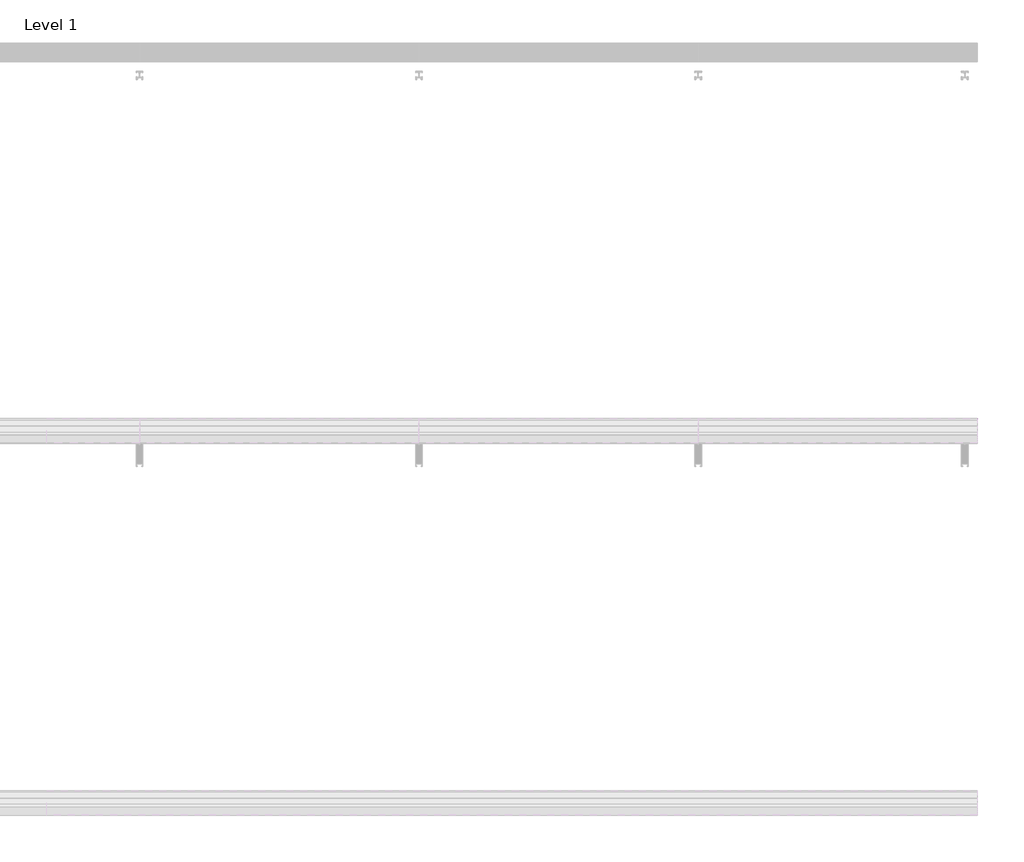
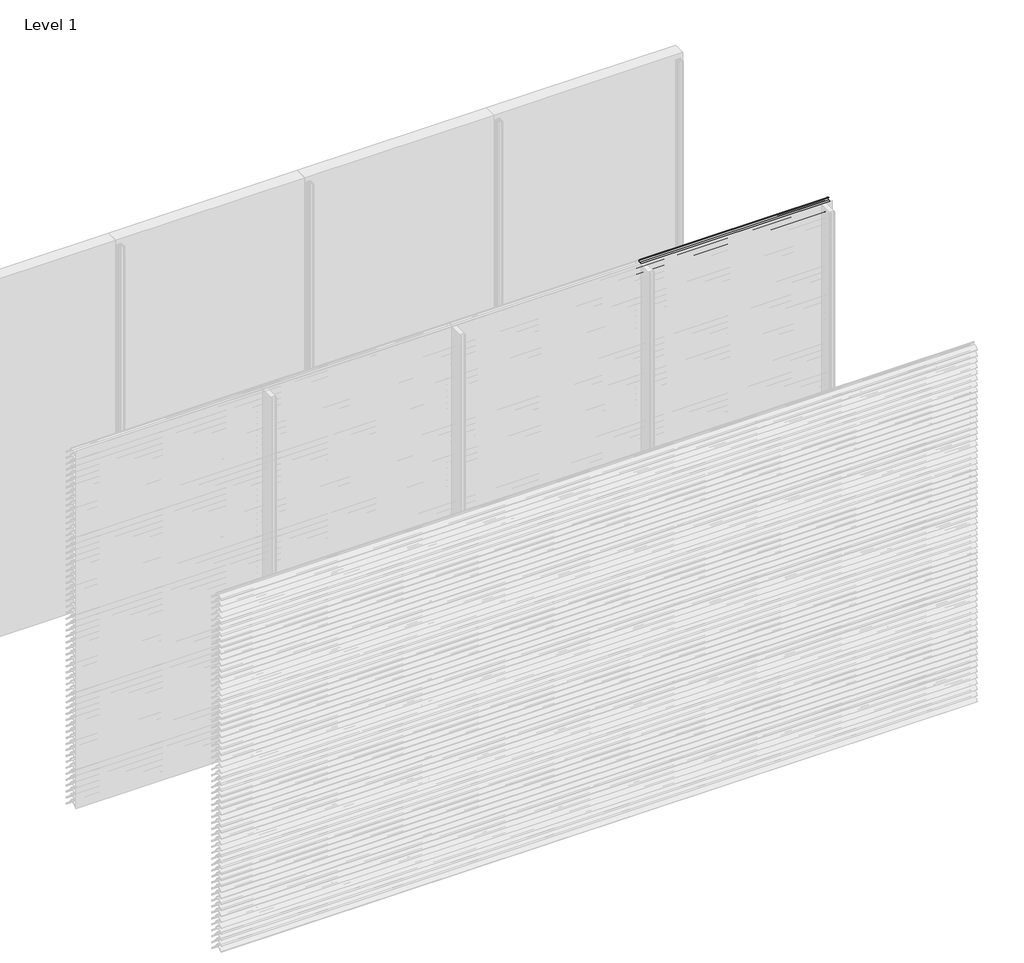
# One storey, part 33 of 173: 18 proxies.
"""IFC4 building model written with IfcOpenShell, lengths in millimetres."""

from ifc_helpers import new_model, si_unit, point, frame, frame_2d, origin, place, context, project, spatial, polyline, circle_curve, trimmed, segment, composite_curve, outline, extrude, element, save

model = new_model("IFC4")

# Units and contexts
model_context = context("Model", 3, world=origin())
ifc_project = project(units=[si_unit("LENGTHUNIT", "METRE", prefix="MILLI")], contexts=[model_context])

# Site, building, storey
site = spatial("IfcSite", under=ifc_project)
building = spatial("IfcBuilding", under=site)
storey = spatial("IfcBuildingStorey", under=building, Name="Level 1", Elevation=0.0)

# Proxies
placement = place(None, origin())
element("IfcBuildingElementProxy", 1, Name="Wall Sweeps", at=placement, inside=storey, context=model_context, shape_type="SweptSolid", body=[
    extrude(outline(composite_curve([segment(polyline([(-47998.0, 709.1474905), (-47998.0, 711.6227417)]), True, "CONTINUOUS"), segment(trimmed(circle_curve(frame_2d((-47951.2682172, 666.2200208)), 65.1557103), [point((-47998.0, 711.6227417))], [point((-47954.4014323, 731.3003524))], False, "CARTESIAN"), True, "CONTINUOUS"), segment(polyline([(-47954.4014323, 731.3003524), (-47934.8315836, 731.3003524)]), True, "CONTINUOUS"), segment(trimmed(circle_curve(frame_2d((-47732.7329489, 878.5533172)), 250.0545817), [point((-47934.8315836, 731.3003524))], [point((-47941.4452143, 740.8344583))], False, "CARTESIAN"), True, "CONTINUOUS"), segment(trimmed(circle_curve(frame_2d((-47953.2981792, 735.1737835)), 13.1352966), [point((-47941.4452143, 740.8344583))], [point((-47953.8171475, 748.298824))], True, "CARTESIAN"), True, "CONTINUOUS"), segment(polyline([(-47953.8171475, 748.298824), (-47953.8171475, 750.0)]), True, "CONTINUOUS"), segment(trimmed(circle_curve(frame_2d((-47953.2981792, 735.1737835)), 14.8352966), [point((-47953.8171475, 750.0))], [point((-47939.9637661, 741.6760487))], False, "CARTESIAN"), True, "CONTINUOUS"), segment(trimmed(circle_curve(frame_2d((-47732.7329489, 878.5533172)), 248.3545817), [point((-47939.9637661, 741.6760487))], [point((-47873.8787895, 674.2059416))], True, "CARTESIAN"), True, "CONTINUOUS"), segment(trimmed(circle_curve(frame_2d((-47883.8147537, 661.6649442)), 16.0), [point((-47873.8787895, 674.2059416))], [point((-47867.8648347, 660.4))], False, "CARTESIAN"), True, "CONTINUOUS"), segment(polyline([(-47867.8648347, 660.4), (-47869.6712069, 660.4)]), True, "CONTINUOUS"), segment(trimmed(circle_curve(frame_2d((-47883.8147537, 661.6649442)), 14.2), [point((-47869.6712069, 660.4))], [point((-47874.9518628, 672.7594998))], True, "CARTESIAN"), True, "CONTINUOUS"), segment(trimmed(circle_curve(frame_2d((-47732.7329489, 878.5533172)), 250.1545817), [point((-47874.9518628, 672.7594998))], [point((-47933.7064024, 729.6003524))], False, "CARTESIAN"), True, "CONTINUOUS"), segment(polyline([(-47933.7064024, 729.6003524), (-47954.3602632, 729.6003524)]), True, "CONTINUOUS"), segment(trimmed(circle_curve(frame_2d((-47951.2682172, 666.2200208)), 63.4557103), [point((-47954.3602632, 729.6003524))], [point((-47998.0, 709.1474905))], True, "CARTESIAN"), True, "CONTINUOUS")], self_intersect=False)), frame((3000.0, 0.0, 0.0), z_axis=(1.0, 0.0, 0.0), x_axis=(0.0, 1.0, 0.0)), (0.0, 0.0, 1.0), 1500.0),
])
element("IfcBuildingElementProxy", 2, Name="Wall Sweeps", at=placement, inside=storey, context=model_context, shape_type="SweptSolid", body=[
    extrude(outline(composite_curve([segment(polyline([(-47998.0, 659.1474905), (-47998.0, 661.6227417)]), True, "CONTINUOUS"), segment(trimmed(circle_curve(frame_2d((-47951.2682172, 616.2200208)), 65.1557103), [point((-47998.0, 661.6227417))], [point((-47954.4014323, 681.3003524))], False, "CARTESIAN"), True, "CONTINUOUS"), segment(polyline([(-47954.4014323, 681.3003524), (-47934.8315836, 681.3003524)]), True, "CONTINUOUS"), segment(trimmed(circle_curve(frame_2d((-47732.7329489, 828.5533172)), 250.0545817), [point((-47934.8315836, 681.3003524))], [point((-47941.4452143, 690.8344583))], False, "CARTESIAN"), True, "CONTINUOUS"), segment(trimmed(circle_curve(frame_2d((-47953.2981792, 685.1737835)), 13.1352966), [point((-47941.4452143, 690.8344583))], [point((-47953.8171475, 698.298824))], True, "CARTESIAN"), True, "CONTINUOUS"), segment(polyline([(-47953.8171475, 698.298824), (-47953.8171475, 700.0)]), True, "CONTINUOUS"), segment(trimmed(circle_curve(frame_2d((-47953.2981792, 685.1737835)), 14.8352966), [point((-47953.8171475, 700.0))], [point((-47939.9637661, 691.6760487))], False, "CARTESIAN"), True, "CONTINUOUS"), segment(trimmed(circle_curve(frame_2d((-47732.7329489, 828.5533172)), 248.3545817), [point((-47939.9637661, 691.6760487))], [point((-47873.8787895, 624.2059416))], True, "CARTESIAN"), True, "CONTINUOUS"), segment(trimmed(circle_curve(frame_2d((-47883.8147537, 611.6649442)), 16.0), [point((-47873.8787895, 624.2059416))], [point((-47867.8648347, 610.4))], False, "CARTESIAN"), True, "CONTINUOUS"), segment(polyline([(-47867.8648347, 610.4), (-47869.6712069, 610.4)]), True, "CONTINUOUS"), segment(trimmed(circle_curve(frame_2d((-47883.8147537, 611.6649442)), 14.2), [point((-47869.6712069, 610.4))], [point((-47874.9518628, 622.7594998))], True, "CARTESIAN"), True, "CONTINUOUS"), segment(trimmed(circle_curve(frame_2d((-47732.7329489, 828.5533172)), 250.1545817), [point((-47874.9518628, 622.7594998))], [point((-47933.7064024, 679.6003524))], False, "CARTESIAN"), True, "CONTINUOUS"), segment(polyline([(-47933.7064024, 679.6003524), (-47954.3602632, 679.6003524)]), True, "CONTINUOUS"), segment(trimmed(circle_curve(frame_2d((-47951.2682172, 616.2200208)), 63.4557103), [point((-47954.3602632, 679.6003524))], [point((-47998.0, 659.1474905))], True, "CARTESIAN"), True, "CONTINUOUS")], self_intersect=False)), frame((3000.0, 0.0, 0.0), z_axis=(1.0, 0.0, 0.0), x_axis=(0.0, 1.0, 0.0)), (0.0, 0.0, 1.0), 1500.0),
])
element("IfcBuildingElementProxy", 3, Name="Wall Sweeps", at=placement, inside=storey, context=model_context, shape_type="SweptSolid", body=[
    extrude(outline(composite_curve([segment(polyline([(-47998.0, 609.1474905), (-47998.0, 611.6227417)]), True, "CONTINUOUS"), segment(trimmed(circle_curve(frame_2d((-47951.2682172, 566.2200208)), 65.1557103), [point((-47998.0, 611.6227417))], [point((-47954.4014323, 631.3003524))], False, "CARTESIAN"), True, "CONTINUOUS"), segment(polyline([(-47954.4014323, 631.3003524), (-47934.8315836, 631.3003524)]), True, "CONTINUOUS"), segment(trimmed(circle_curve(frame_2d((-47732.7329489, 778.5533172)), 250.0545817), [point((-47934.8315836, 631.3003524))], [point((-47941.4452143, 640.8344583))], False, "CARTESIAN"), True, "CONTINUOUS"), segment(trimmed(circle_curve(frame_2d((-47953.2981792, 635.1737835)), 13.1352966), [point((-47941.4452143, 640.8344583))], [point((-47953.8171475, 648.298824))], True, "CARTESIAN"), True, "CONTINUOUS"), segment(polyline([(-47953.8171475, 648.298824), (-47953.8171475, 650.0)]), True, "CONTINUOUS"), segment(trimmed(circle_curve(frame_2d((-47953.2981792, 635.1737835)), 14.8352966), [point((-47953.8171475, 650.0))], [point((-47939.9637661, 641.6760487))], False, "CARTESIAN"), True, "CONTINUOUS"), segment(trimmed(circle_curve(frame_2d((-47732.7329489, 778.5533172)), 248.3545817), [point((-47939.9637661, 641.6760487))], [point((-47873.8787895, 574.2059416))], True, "CARTESIAN"), True, "CONTINUOUS"), segment(trimmed(circle_curve(frame_2d((-47883.8147537, 561.6649442)), 16.0), [point((-47873.8787895, 574.2059416))], [point((-47867.8648347, 560.4))], False, "CARTESIAN"), True, "CONTINUOUS"), segment(polyline([(-47867.8648347, 560.4), (-47869.6712069, 560.4)]), True, "CONTINUOUS"), segment(trimmed(circle_curve(frame_2d((-47883.8147537, 561.6649442)), 14.2), [point((-47869.6712069, 560.4))], [point((-47874.9518628, 572.7594998))], True, "CARTESIAN"), True, "CONTINUOUS"), segment(trimmed(circle_curve(frame_2d((-47732.7329489, 778.5533172)), 250.1545817), [point((-47874.9518628, 572.7594998))], [point((-47933.7064024, 629.6003524))], False, "CARTESIAN"), True, "CONTINUOUS"), segment(polyline([(-47933.7064024, 629.6003524), (-47954.3602632, 629.6003524)]), True, "CONTINUOUS"), segment(trimmed(circle_curve(frame_2d((-47951.2682172, 566.2200208)), 63.4557103), [point((-47954.3602632, 629.6003524))], [point((-47998.0, 609.1474905))], True, "CARTESIAN"), True, "CONTINUOUS")], self_intersect=False)), frame((3000.0, 0.0, 0.0), z_axis=(1.0, 0.0, 0.0), x_axis=(0.0, 1.0, 0.0)), (0.0, 0.0, 1.0), 1500.0),
])
element("IfcBuildingElementProxy", 4, Name="Wall Sweeps", at=placement, inside=storey, context=model_context, shape_type="SweptSolid", body=[
    extrude(outline(composite_curve([segment(polyline([(-47998.0, 559.1474905), (-47998.0, 561.6227417)]), True, "CONTINUOUS"), segment(trimmed(circle_curve(frame_2d((-47951.2682172, 516.2200208)), 65.1557103), [point((-47998.0, 561.6227417))], [point((-47954.4014323, 581.3003524))], False, "CARTESIAN"), True, "CONTINUOUS"), segment(polyline([(-47954.4014323, 581.3003524), (-47934.8315836, 581.3003524)]), True, "CONTINUOUS"), segment(trimmed(circle_curve(frame_2d((-47732.7329489, 728.5533172)), 250.0545817), [point((-47934.8315836, 581.3003524))], [point((-47941.4452143, 590.8344583))], False, "CARTESIAN"), True, "CONTINUOUS"), segment(trimmed(circle_curve(frame_2d((-47953.2981792, 585.1737835)), 13.1352966), [point((-47941.4452143, 590.8344583))], [point((-47953.8171475, 598.298824))], True, "CARTESIAN"), True, "CONTINUOUS"), segment(polyline([(-47953.8171475, 598.298824), (-47953.8171475, 600.0)]), True, "CONTINUOUS"), segment(trimmed(circle_curve(frame_2d((-47953.2981792, 585.1737835)), 14.8352966), [point((-47953.8171475, 600.0))], [point((-47939.9637661, 591.6760487))], False, "CARTESIAN"), True, "CONTINUOUS"), segment(trimmed(circle_curve(frame_2d((-47732.7329489, 728.5533172)), 248.3545817), [point((-47939.9637661, 591.6760487))], [point((-47873.8787895, 524.2059416))], True, "CARTESIAN"), True, "CONTINUOUS"), segment(trimmed(circle_curve(frame_2d((-47883.8147537, 511.6649442)), 16.0), [point((-47873.8787895, 524.2059416))], [point((-47867.8648347, 510.4))], False, "CARTESIAN"), True, "CONTINUOUS"), segment(polyline([(-47867.8648347, 510.4), (-47869.6712069, 510.4)]), True, "CONTINUOUS"), segment(trimmed(circle_curve(frame_2d((-47883.8147537, 511.6649442)), 14.2), [point((-47869.6712069, 510.4))], [point((-47874.9518628, 522.7594998))], True, "CARTESIAN"), True, "CONTINUOUS"), segment(trimmed(circle_curve(frame_2d((-47732.7329489, 728.5533172)), 250.1545817), [point((-47874.9518628, 522.7594998))], [point((-47933.7064024, 579.6003524))], False, "CARTESIAN"), True, "CONTINUOUS"), segment(polyline([(-47933.7064024, 579.6003524), (-47954.3602632, 579.6003524)]), True, "CONTINUOUS"), segment(trimmed(circle_curve(frame_2d((-47951.2682172, 516.2200208)), 63.4557103), [point((-47954.3602632, 579.6003524))], [point((-47998.0, 559.1474905))], True, "CARTESIAN"), True, "CONTINUOUS")], self_intersect=False)), frame((3000.0, 0.0, 0.0), z_axis=(1.0, 0.0, 0.0), x_axis=(0.0, 1.0, 0.0)), (0.0, 0.0, 1.0), 1500.0),
])
element("IfcBuildingElementProxy", 5, Name="Wall Sweeps", at=placement, inside=storey, context=model_context, shape_type="SweptSolid", body=[
    extrude(outline(composite_curve([segment(polyline([(-47998.0, 509.1474905), (-47998.0, 511.6227417)]), True, "CONTINUOUS"), segment(trimmed(circle_curve(frame_2d((-47951.2682172, 466.2200208)), 65.1557103), [point((-47998.0, 511.6227417))], [point((-47954.4014323, 531.3003524))], False, "CARTESIAN"), True, "CONTINUOUS"), segment(polyline([(-47954.4014323, 531.3003524), (-47934.8315836, 531.3003524)]), True, "CONTINUOUS"), segment(trimmed(circle_curve(frame_2d((-47732.7329489, 678.5533172)), 250.0545817), [point((-47934.8315836, 531.3003524))], [point((-47941.4452143, 540.8344583))], False, "CARTESIAN"), True, "CONTINUOUS"), segment(trimmed(circle_curve(frame_2d((-47953.2981792, 535.1737835)), 13.1352966), [point((-47941.4452143, 540.8344583))], [point((-47953.8171475, 548.298824))], True, "CARTESIAN"), True, "CONTINUOUS"), segment(polyline([(-47953.8171475, 548.298824), (-47953.8171475, 550.0)]), True, "CONTINUOUS"), segment(trimmed(circle_curve(frame_2d((-47953.2981792, 535.1737835)), 14.8352966), [point((-47953.8171475, 550.0))], [point((-47939.9637661, 541.6760487))], False, "CARTESIAN"), True, "CONTINUOUS"), segment(trimmed(circle_curve(frame_2d((-47732.7329489, 678.5533172)), 248.3545817), [point((-47939.9637661, 541.6760487))], [point((-47873.8787895, 474.2059416))], True, "CARTESIAN"), True, "CONTINUOUS"), segment(trimmed(circle_curve(frame_2d((-47883.8147537, 461.6649442)), 16.0), [point((-47873.8787895, 474.2059416))], [point((-47867.8648347, 460.4))], False, "CARTESIAN"), True, "CONTINUOUS"), segment(polyline([(-47867.8648347, 460.4), (-47869.6712069, 460.4)]), True, "CONTINUOUS"), segment(trimmed(circle_curve(frame_2d((-47883.8147537, 461.6649442)), 14.2), [point((-47869.6712069, 460.4))], [point((-47874.9518628, 472.7594998))], True, "CARTESIAN"), True, "CONTINUOUS"), segment(trimmed(circle_curve(frame_2d((-47732.7329489, 678.5533172)), 250.1545817), [point((-47874.9518628, 472.7594998))], [point((-47933.7064024, 529.6003524))], False, "CARTESIAN"), True, "CONTINUOUS"), segment(polyline([(-47933.7064024, 529.6003524), (-47954.3602632, 529.6003524)]), True, "CONTINUOUS"), segment(trimmed(circle_curve(frame_2d((-47951.2682172, 466.2200208)), 63.4557103), [point((-47954.3602632, 529.6003524))], [point((-47998.0, 509.1474905))], True, "CARTESIAN"), True, "CONTINUOUS")], self_intersect=False)), frame((3000.0, 0.0, 0.0), z_axis=(1.0, 0.0, 0.0), x_axis=(0.0, 1.0, 0.0)), (0.0, 0.0, 1.0), 1500.0),
])
element("IfcBuildingElementProxy", 6, Name="Wall Sweeps", at=placement, inside=storey, context=model_context, shape_type="SweptSolid", body=[
    extrude(outline(composite_curve([segment(polyline([(-47998.0, 459.1474905), (-47998.0, 461.6227417)]), True, "CONTINUOUS"), segment(trimmed(circle_curve(frame_2d((-47951.2682172, 416.2200208)), 65.1557103), [point((-47998.0, 461.6227417))], [point((-47954.4014323, 481.3003524))], False, "CARTESIAN"), True, "CONTINUOUS"), segment(polyline([(-47954.4014323, 481.3003524), (-47934.8315836, 481.3003524)]), True, "CONTINUOUS"), segment(trimmed(circle_curve(frame_2d((-47732.7329489, 628.5533172)), 250.0545817), [point((-47934.8315836, 481.3003524))], [point((-47941.4452143, 490.8344583))], False, "CARTESIAN"), True, "CONTINUOUS"), segment(trimmed(circle_curve(frame_2d((-47953.2981792, 485.1737835)), 13.1352966), [point((-47941.4452143, 490.8344583))], [point((-47953.8171475, 498.298824))], True, "CARTESIAN"), True, "CONTINUOUS"), segment(polyline([(-47953.8171475, 498.298824), (-47953.8171475, 500.0)]), True, "CONTINUOUS"), segment(trimmed(circle_curve(frame_2d((-47953.2981792, 485.1737835)), 14.8352966), [point((-47953.8171475, 500.0))], [point((-47939.9637661, 491.6760487))], False, "CARTESIAN"), True, "CONTINUOUS"), segment(trimmed(circle_curve(frame_2d((-47732.7329489, 628.5533172)), 248.3545817), [point((-47939.9637661, 491.6760487))], [point((-47873.8787895, 424.2059416))], True, "CARTESIAN"), True, "CONTINUOUS"), segment(trimmed(circle_curve(frame_2d((-47883.8147537, 411.6649442)), 16.0), [point((-47873.8787895, 424.2059416))], [point((-47867.8648347, 410.4))], False, "CARTESIAN"), True, "CONTINUOUS"), segment(polyline([(-47867.8648347, 410.4), (-47869.6712069, 410.4)]), True, "CONTINUOUS"), segment(trimmed(circle_curve(frame_2d((-47883.8147537, 411.6649442)), 14.2), [point((-47869.6712069, 410.4))], [point((-47874.9518628, 422.7594998))], True, "CARTESIAN"), True, "CONTINUOUS"), segment(trimmed(circle_curve(frame_2d((-47732.7329489, 628.5533172)), 250.1545817), [point((-47874.9518628, 422.7594998))], [point((-47933.7064024, 479.6003524))], False, "CARTESIAN"), True, "CONTINUOUS"), segment(polyline([(-47933.7064024, 479.6003524), (-47954.3602632, 479.6003524)]), True, "CONTINUOUS"), segment(trimmed(circle_curve(frame_2d((-47951.2682172, 416.2200208)), 63.4557103), [point((-47954.3602632, 479.6003524))], [point((-47998.0, 459.1474905))], True, "CARTESIAN"), True, "CONTINUOUS")], self_intersect=False)), frame((3000.0, 0.0, 0.0), z_axis=(1.0, 0.0, 0.0), x_axis=(0.0, 1.0, 0.0)), (0.0, 0.0, 1.0), 1500.0),
])
element("IfcBuildingElementProxy", 7, Name="Wall Sweeps", at=placement, inside=storey, context=model_context, shape_type="SweptSolid", body=[
    extrude(outline(composite_curve([segment(polyline([(-47998.0, 409.1474905), (-47998.0, 411.6227417)]), True, "CONTINUOUS"), segment(trimmed(circle_curve(frame_2d((-47951.2682172, 366.2200208)), 65.1557103), [point((-47998.0, 411.6227417))], [point((-47954.4014323, 431.3003524))], False, "CARTESIAN"), True, "CONTINUOUS"), segment(polyline([(-47954.4014323, 431.3003524), (-47934.8315836, 431.3003524)]), True, "CONTINUOUS"), segment(trimmed(circle_curve(frame_2d((-47732.7329489, 578.5533172)), 250.0545817), [point((-47934.8315836, 431.3003524))], [point((-47941.4452143, 440.8344583))], False, "CARTESIAN"), True, "CONTINUOUS"), segment(trimmed(circle_curve(frame_2d((-47953.2981792, 435.1737835)), 13.1352966), [point((-47941.4452143, 440.8344583))], [point((-47953.8171475, 448.298824))], True, "CARTESIAN"), True, "CONTINUOUS"), segment(polyline([(-47953.8171475, 448.298824), (-47953.8171475, 450.0)]), True, "CONTINUOUS"), segment(trimmed(circle_curve(frame_2d((-47953.2981792, 435.1737835)), 14.8352966), [point((-47953.8171475, 450.0))], [point((-47939.9637661, 441.6760487))], False, "CARTESIAN"), True, "CONTINUOUS"), segment(trimmed(circle_curve(frame_2d((-47732.7329489, 578.5533172)), 248.3545817), [point((-47939.9637661, 441.6760487))], [point((-47873.8787895, 374.2059416))], True, "CARTESIAN"), True, "CONTINUOUS"), segment(trimmed(circle_curve(frame_2d((-47883.8147537, 361.6649442)), 16.0), [point((-47873.8787895, 374.2059416))], [point((-47867.8648347, 360.4))], False, "CARTESIAN"), True, "CONTINUOUS"), segment(polyline([(-47867.8648347, 360.4), (-47869.6712069, 360.4)]), True, "CONTINUOUS"), segment(trimmed(circle_curve(frame_2d((-47883.8147537, 361.6649442)), 14.2), [point((-47869.6712069, 360.4))], [point((-47874.9518628, 372.7594998))], True, "CARTESIAN"), True, "CONTINUOUS"), segment(trimmed(circle_curve(frame_2d((-47732.7329489, 578.5533172)), 250.1545817), [point((-47874.9518628, 372.7594998))], [point((-47933.7064024, 429.6003524))], False, "CARTESIAN"), True, "CONTINUOUS"), segment(polyline([(-47933.7064024, 429.6003524), (-47954.3602632, 429.6003524)]), True, "CONTINUOUS"), segment(trimmed(circle_curve(frame_2d((-47951.2682172, 366.2200208)), 63.4557103), [point((-47954.3602632, 429.6003524))], [point((-47998.0, 409.1474905))], True, "CARTESIAN"), True, "CONTINUOUS")], self_intersect=False)), frame((3000.0, 0.0, 0.0), z_axis=(1.0, 0.0, 0.0), x_axis=(0.0, 1.0, 0.0)), (0.0, 0.0, 1.0), 1500.0),
])
element("IfcBuildingElementProxy", 8, Name="Wall Sweeps", at=placement, inside=storey, context=model_context, shape_type="SweptSolid", body=[
    extrude(outline(composite_curve([segment(polyline([(-47998.0, 359.1474905), (-47998.0, 361.6227417)]), True, "CONTINUOUS"), segment(trimmed(circle_curve(frame_2d((-47951.2682172, 316.2200208)), 65.1557103), [point((-47998.0, 361.6227417))], [point((-47954.4014323, 381.3003524))], False, "CARTESIAN"), True, "CONTINUOUS"), segment(polyline([(-47954.4014323, 381.3003524), (-47934.8315836, 381.3003524)]), True, "CONTINUOUS"), segment(trimmed(circle_curve(frame_2d((-47732.7329489, 528.5533172)), 250.0545817), [point((-47934.8315836, 381.3003524))], [point((-47941.4452143, 390.8344583))], False, "CARTESIAN"), True, "CONTINUOUS"), segment(trimmed(circle_curve(frame_2d((-47953.2981792, 385.1737835)), 13.1352966), [point((-47941.4452143, 390.8344583))], [point((-47953.8171475, 398.298824))], True, "CARTESIAN"), True, "CONTINUOUS"), segment(polyline([(-47953.8171475, 398.298824), (-47953.8171475, 400.0)]), True, "CONTINUOUS"), segment(trimmed(circle_curve(frame_2d((-47953.2981792, 385.1737835)), 14.8352966), [point((-47953.8171475, 400.0))], [point((-47939.9637661, 391.6760487))], False, "CARTESIAN"), True, "CONTINUOUS"), segment(trimmed(circle_curve(frame_2d((-47732.7329489, 528.5533172)), 248.3545817), [point((-47939.9637661, 391.6760487))], [point((-47873.8787895, 324.2059416))], True, "CARTESIAN"), True, "CONTINUOUS"), segment(trimmed(circle_curve(frame_2d((-47883.8147537, 311.6649442)), 16.0), [point((-47873.8787895, 324.2059416))], [point((-47867.8648347, 310.4))], False, "CARTESIAN"), True, "CONTINUOUS"), segment(polyline([(-47867.8648347, 310.4), (-47869.6712069, 310.4)]), True, "CONTINUOUS"), segment(trimmed(circle_curve(frame_2d((-47883.8147537, 311.6649442)), 14.2), [point((-47869.6712069, 310.4))], [point((-47874.9518628, 322.7594998))], True, "CARTESIAN"), True, "CONTINUOUS"), segment(trimmed(circle_curve(frame_2d((-47732.7329489, 528.5533172)), 250.1545817), [point((-47874.9518628, 322.7594998))], [point((-47933.7064024, 379.6003524))], False, "CARTESIAN"), True, "CONTINUOUS"), segment(polyline([(-47933.7064024, 379.6003524), (-47954.3602632, 379.6003524)]), True, "CONTINUOUS"), segment(trimmed(circle_curve(frame_2d((-47951.2682172, 316.2200208)), 63.4557103), [point((-47954.3602632, 379.6003524))], [point((-47998.0, 359.1474905))], True, "CARTESIAN"), True, "CONTINUOUS")], self_intersect=False)), frame((3000.0, 0.0, 0.0), z_axis=(1.0, 0.0, 0.0), x_axis=(0.0, 1.0, 0.0)), (0.0, 0.0, 1.0), 1500.0),
])
element("IfcBuildingElementProxy", 9, Name="Wall Sweeps", at=placement, inside=storey, context=model_context, shape_type="SweptSolid", body=[
    extrude(outline(composite_curve([segment(polyline([(-47998.0, 309.1474905), (-47998.0, 311.6227417)]), True, "CONTINUOUS"), segment(trimmed(circle_curve(frame_2d((-47951.2682172, 266.2200208)), 65.1557103), [point((-47998.0, 311.6227417))], [point((-47954.4014323, 331.3003524))], False, "CARTESIAN"), True, "CONTINUOUS"), segment(polyline([(-47954.4014323, 331.3003524), (-47934.8315836, 331.3003524)]), True, "CONTINUOUS"), segment(trimmed(circle_curve(frame_2d((-47732.7329489, 478.5533172)), 250.0545817), [point((-47934.8315836, 331.3003524))], [point((-47941.4452143, 340.8344583))], False, "CARTESIAN"), True, "CONTINUOUS"), segment(trimmed(circle_curve(frame_2d((-47953.2981792, 335.1737835)), 13.1352966), [point((-47941.4452143, 340.8344583))], [point((-47953.8171475, 348.298824))], True, "CARTESIAN"), True, "CONTINUOUS"), segment(polyline([(-47953.8171475, 348.298824), (-47953.8171475, 350.0)]), True, "CONTINUOUS"), segment(trimmed(circle_curve(frame_2d((-47953.2981792, 335.1737835)), 14.8352966), [point((-47953.8171475, 350.0))], [point((-47939.9637661, 341.6760487))], False, "CARTESIAN"), True, "CONTINUOUS"), segment(trimmed(circle_curve(frame_2d((-47732.7329489, 478.5533172)), 248.3545817), [point((-47939.9637661, 341.6760487))], [point((-47873.8787895, 274.2059416))], True, "CARTESIAN"), True, "CONTINUOUS"), segment(trimmed(circle_curve(frame_2d((-47883.8147537, 261.6649442)), 16.0), [point((-47873.8787895, 274.2059416))], [point((-47867.8648347, 260.4))], False, "CARTESIAN"), True, "CONTINUOUS"), segment(polyline([(-47867.8648347, 260.4), (-47869.6712069, 260.4)]), True, "CONTINUOUS"), segment(trimmed(circle_curve(frame_2d((-47883.8147537, 261.6649442)), 14.2), [point((-47869.6712069, 260.4))], [point((-47874.9518628, 272.7594998))], True, "CARTESIAN"), True, "CONTINUOUS"), segment(trimmed(circle_curve(frame_2d((-47732.7329489, 478.5533172)), 250.1545817), [point((-47874.9518628, 272.7594998))], [point((-47933.7064024, 329.6003524))], False, "CARTESIAN"), True, "CONTINUOUS"), segment(polyline([(-47933.7064024, 329.6003524), (-47954.3602632, 329.6003524)]), True, "CONTINUOUS"), segment(trimmed(circle_curve(frame_2d((-47951.2682172, 266.2200208)), 63.4557103), [point((-47954.3602632, 329.6003524))], [point((-47998.0, 309.1474905))], True, "CARTESIAN"), True, "CONTINUOUS")], self_intersect=False)), frame((3000.0, 0.0, 0.0), z_axis=(1.0, 0.0, 0.0), x_axis=(0.0, 1.0, 0.0)), (0.0, 0.0, 1.0), 1500.0),
])
element("IfcBuildingElementProxy", 10, Name="Wall Sweeps", at=placement, inside=storey, context=model_context, shape_type="SweptSolid", body=[
    extrude(outline(composite_curve([segment(polyline([(-47998.0, 259.1474905), (-47998.0, 261.6227417)]), True, "CONTINUOUS"), segment(trimmed(circle_curve(frame_2d((-47951.2682172, 216.2200208)), 65.1557103), [point((-47998.0, 261.6227417))], [point((-47954.4014323, 281.3003524))], False, "CARTESIAN"), True, "CONTINUOUS"), segment(polyline([(-47954.4014323, 281.3003524), (-47934.8315836, 281.3003524)]), True, "CONTINUOUS"), segment(trimmed(circle_curve(frame_2d((-47732.7329489, 428.5533172)), 250.0545817), [point((-47934.8315836, 281.3003524))], [point((-47941.4452143, 290.8344583))], False, "CARTESIAN"), True, "CONTINUOUS"), segment(trimmed(circle_curve(frame_2d((-47953.2981792, 285.1737835)), 13.1352966), [point((-47941.4452143, 290.8344583))], [point((-47953.8171475, 298.298824))], True, "CARTESIAN"), True, "CONTINUOUS"), segment(polyline([(-47953.8171475, 298.298824), (-47953.8171475, 300.0)]), True, "CONTINUOUS"), segment(trimmed(circle_curve(frame_2d((-47953.2981792, 285.1737835)), 14.8352966), [point((-47953.8171475, 300.0))], [point((-47939.9637661, 291.6760487))], False, "CARTESIAN"), True, "CONTINUOUS"), segment(trimmed(circle_curve(frame_2d((-47732.7329489, 428.5533172)), 248.3545817), [point((-47939.9637661, 291.6760487))], [point((-47873.8787895, 224.2059416))], True, "CARTESIAN"), True, "CONTINUOUS"), segment(trimmed(circle_curve(frame_2d((-47883.8147537, 211.6649442)), 16.0), [point((-47873.8787895, 224.2059416))], [point((-47867.8648347, 210.4))], False, "CARTESIAN"), True, "CONTINUOUS"), segment(polyline([(-47867.8648347, 210.4), (-47869.6712069, 210.4)]), True, "CONTINUOUS"), segment(trimmed(circle_curve(frame_2d((-47883.8147537, 211.6649442)), 14.2), [point((-47869.6712069, 210.4))], [point((-47874.9518628, 222.7594998))], True, "CARTESIAN"), True, "CONTINUOUS"), segment(trimmed(circle_curve(frame_2d((-47732.7329489, 428.5533172)), 250.1545817), [point((-47874.9518628, 222.7594998))], [point((-47933.7064024, 279.6003524))], False, "CARTESIAN"), True, "CONTINUOUS"), segment(polyline([(-47933.7064024, 279.6003524), (-47954.3602632, 279.6003524)]), True, "CONTINUOUS"), segment(trimmed(circle_curve(frame_2d((-47951.2682172, 216.2200208)), 63.4557103), [point((-47954.3602632, 279.6003524))], [point((-47998.0, 259.1474905))], True, "CARTESIAN"), True, "CONTINUOUS")], self_intersect=False)), frame((3000.0, 0.0, 0.0), z_axis=(1.0, 0.0, 0.0), x_axis=(0.0, 1.0, 0.0)), (0.0, 0.0, 1.0), 1500.0),
])
element("IfcBuildingElementProxy", 11, Name="Wall Sweeps", at=placement, inside=storey, context=model_context, shape_type="SweptSolid", body=[
    extrude(outline(composite_curve([segment(polyline([(-47998.0, 209.1474905), (-47998.0, 211.6227417)]), True, "CONTINUOUS"), segment(trimmed(circle_curve(frame_2d((-47951.2682172, 166.2200208)), 65.1557103), [point((-47998.0, 211.6227417))], [point((-47954.4014323, 231.3003524))], False, "CARTESIAN"), True, "CONTINUOUS"), segment(polyline([(-47954.4014323, 231.3003524), (-47934.8315836, 231.3003524)]), True, "CONTINUOUS"), segment(trimmed(circle_curve(frame_2d((-47732.7329489, 378.5533172)), 250.0545817), [point((-47934.8315836, 231.3003524))], [point((-47941.4452143, 240.8344583))], False, "CARTESIAN"), True, "CONTINUOUS"), segment(trimmed(circle_curve(frame_2d((-47953.2981792, 235.1737835)), 13.1352966), [point((-47941.4452143, 240.8344583))], [point((-47953.8171475, 248.298824))], True, "CARTESIAN"), True, "CONTINUOUS"), segment(polyline([(-47953.8171475, 248.298824), (-47953.8171475, 250.0)]), True, "CONTINUOUS"), segment(trimmed(circle_curve(frame_2d((-47953.2981792, 235.1737835)), 14.8352966), [point((-47953.8171475, 250.0))], [point((-47939.9637661, 241.6760487))], False, "CARTESIAN"), True, "CONTINUOUS"), segment(trimmed(circle_curve(frame_2d((-47732.7329489, 378.5533172)), 248.3545817), [point((-47939.9637661, 241.6760487))], [point((-47873.8787895, 174.2059416))], True, "CARTESIAN"), True, "CONTINUOUS"), segment(trimmed(circle_curve(frame_2d((-47883.8147537, 161.6649442)), 16.0), [point((-47873.8787895, 174.2059416))], [point((-47867.8648347, 160.4))], False, "CARTESIAN"), True, "CONTINUOUS"), segment(polyline([(-47867.8648347, 160.4), (-47869.6712069, 160.4)]), True, "CONTINUOUS"), segment(trimmed(circle_curve(frame_2d((-47883.8147537, 161.6649442)), 14.2), [point((-47869.6712069, 160.4))], [point((-47874.9518628, 172.7594998))], True, "CARTESIAN"), True, "CONTINUOUS"), segment(trimmed(circle_curve(frame_2d((-47732.7329489, 378.5533172)), 250.1545817), [point((-47874.9518628, 172.7594998))], [point((-47933.7064024, 229.6003524))], False, "CARTESIAN"), True, "CONTINUOUS"), segment(polyline([(-47933.7064024, 229.6003524), (-47954.3602632, 229.6003524)]), True, "CONTINUOUS"), segment(trimmed(circle_curve(frame_2d((-47951.2682172, 166.2200208)), 63.4557103), [point((-47954.3602632, 229.6003524))], [point((-47998.0, 209.1474905))], True, "CARTESIAN"), True, "CONTINUOUS")], self_intersect=False)), frame((3000.0, 0.0, 0.0), z_axis=(1.0, 0.0, 0.0), x_axis=(0.0, 1.0, 0.0)), (0.0, 0.0, 1.0), 1500.0),
])
element("IfcBuildingElementProxy", 12, Name="Wall Sweeps", at=placement, inside=storey, context=model_context, shape_type="SweptSolid", body=[
    extrude(outline(composite_curve([segment(polyline([(-47998.0, 159.1474905), (-47998.0, 161.6227417)]), True, "CONTINUOUS"), segment(trimmed(circle_curve(frame_2d((-47951.2682172, 116.2200208)), 65.1557103), [point((-47998.0, 161.6227417))], [point((-47954.4014323, 181.3003524))], False, "CARTESIAN"), True, "CONTINUOUS"), segment(polyline([(-47954.4014323, 181.3003524), (-47934.8315836, 181.3003524)]), True, "CONTINUOUS"), segment(trimmed(circle_curve(frame_2d((-47732.7329489, 328.5533172)), 250.0545817), [point((-47934.8315836, 181.3003524))], [point((-47941.4452143, 190.8344583))], False, "CARTESIAN"), True, "CONTINUOUS"), segment(trimmed(circle_curve(frame_2d((-47953.2981792, 185.1737835)), 13.1352966), [point((-47941.4452143, 190.8344583))], [point((-47953.8171475, 198.298824))], True, "CARTESIAN"), True, "CONTINUOUS"), segment(polyline([(-47953.8171475, 198.298824), (-47953.8171475, 200.0)]), True, "CONTINUOUS"), segment(trimmed(circle_curve(frame_2d((-47953.2981792, 185.1737835)), 14.8352966), [point((-47953.8171475, 200.0))], [point((-47939.9637661, 191.6760487))], False, "CARTESIAN"), True, "CONTINUOUS"), segment(trimmed(circle_curve(frame_2d((-47732.7329489, 328.5533172)), 248.3545817), [point((-47939.9637661, 191.6760487))], [point((-47873.8787895, 124.2059416))], True, "CARTESIAN"), True, "CONTINUOUS"), segment(trimmed(circle_curve(frame_2d((-47883.8147537, 111.6649442)), 16.0), [point((-47873.8787895, 124.2059416))], [point((-47867.8648347, 110.4))], False, "CARTESIAN"), True, "CONTINUOUS"), segment(polyline([(-47867.8648347, 110.4), (-47869.6712069, 110.4)]), True, "CONTINUOUS"), segment(trimmed(circle_curve(frame_2d((-47883.8147537, 111.6649442)), 14.2), [point((-47869.6712069, 110.4))], [point((-47874.9518628, 122.7594998))], True, "CARTESIAN"), True, "CONTINUOUS"), segment(trimmed(circle_curve(frame_2d((-47732.7329489, 328.5533172)), 250.1545817), [point((-47874.9518628, 122.7594998))], [point((-47933.7064024, 179.6003524))], False, "CARTESIAN"), True, "CONTINUOUS"), segment(polyline([(-47933.7064024, 179.6003524), (-47954.3602632, 179.6003524)]), True, "CONTINUOUS"), segment(trimmed(circle_curve(frame_2d((-47951.2682172, 116.2200208)), 63.4557103), [point((-47954.3602632, 179.6003524))], [point((-47998.0, 159.1474905))], True, "CARTESIAN"), True, "CONTINUOUS")], self_intersect=False)), frame((3000.0, 0.0, 0.0), z_axis=(1.0, 0.0, 0.0), x_axis=(0.0, 1.0, 0.0)), (0.0, 0.0, 1.0), 1500.0),
])
element("IfcBuildingElementProxy", 13, Name="Wall Sweeps", at=placement, inside=storey, context=model_context, shape_type="SweptSolid", body=[
    extrude(outline(composite_curve([segment(polyline([(-47998.0, 109.1474905), (-47998.0, 111.6227417)]), True, "CONTINUOUS"), segment(trimmed(circle_curve(frame_2d((-47951.2682172, 66.2200208)), 65.1557103), [point((-47998.0, 111.6227417))], [point((-47954.4014323, 131.3003524))], False, "CARTESIAN"), True, "CONTINUOUS"), segment(polyline([(-47954.4014323, 131.3003524), (-47934.8315836, 131.3003524)]), True, "CONTINUOUS"), segment(trimmed(circle_curve(frame_2d((-47732.7329489, 278.5533172)), 250.0545817), [point((-47934.8315836, 131.3003524))], [point((-47941.4452143, 140.8344583))], False, "CARTESIAN"), True, "CONTINUOUS"), segment(trimmed(circle_curve(frame_2d((-47953.2981792, 135.1737835)), 13.1352966), [point((-47941.4452143, 140.8344583))], [point((-47953.8171475, 148.298824))], True, "CARTESIAN"), True, "CONTINUOUS"), segment(polyline([(-47953.8171475, 148.298824), (-47953.8171475, 150.0)]), True, "CONTINUOUS"), segment(trimmed(circle_curve(frame_2d((-47953.2981792, 135.1737835)), 14.8352966), [point((-47953.8171475, 150.0))], [point((-47939.9637661, 141.6760487))], False, "CARTESIAN"), True, "CONTINUOUS"), segment(trimmed(circle_curve(frame_2d((-47732.7329489, 278.5533172)), 248.3545817), [point((-47939.9637661, 141.6760487))], [point((-47873.8787895, 74.2059416))], True, "CARTESIAN"), True, "CONTINUOUS"), segment(trimmed(circle_curve(frame_2d((-47883.8147537, 61.6649442)), 16.0), [point((-47873.8787895, 74.2059416))], [point((-47867.8648347, 60.4))], False, "CARTESIAN"), True, "CONTINUOUS"), segment(polyline([(-47867.8648347, 60.4), (-47869.6712069, 60.4)]), True, "CONTINUOUS"), segment(trimmed(circle_curve(frame_2d((-47883.8147537, 61.6649442)), 14.2), [point((-47869.6712069, 60.4))], [point((-47874.9518628, 72.7594998))], True, "CARTESIAN"), True, "CONTINUOUS"), segment(trimmed(circle_curve(frame_2d((-47732.7329489, 278.5533172)), 250.1545817), [point((-47874.9518628, 72.7594998))], [point((-47933.7064024, 129.6003524))], False, "CARTESIAN"), True, "CONTINUOUS"), segment(polyline([(-47933.7064024, 129.6003524), (-47954.3602632, 129.6003524)]), True, "CONTINUOUS"), segment(trimmed(circle_curve(frame_2d((-47951.2682172, 66.2200208)), 63.4557103), [point((-47954.3602632, 129.6003524))], [point((-47998.0, 109.1474905))], True, "CARTESIAN"), True, "CONTINUOUS")], self_intersect=False)), frame((3000.0, 0.0, 0.0), z_axis=(1.0, 0.0, 0.0), x_axis=(0.0, 1.0, 0.0)), (0.0, 0.0, 1.0), 1500.0),
])
element("IfcBuildingElementProxy", 14, Name="Wall Sweeps", at=placement, inside=storey, context=model_context, shape_type="SweptSolid", body=[
    extrude(outline(composite_curve([segment(polyline([(-47998.0, 59.1474905), (-47998.0, 61.6227417)]), True, "CONTINUOUS"), segment(trimmed(circle_curve(frame_2d((-47951.2682172, 16.2200208)), 65.1557103), [point((-47998.0, 61.6227417))], [point((-47954.4014323, 81.3003524))], False, "CARTESIAN"), True, "CONTINUOUS"), segment(polyline([(-47954.4014323, 81.3003524), (-47934.8315836, 81.3003524)]), True, "CONTINUOUS"), segment(trimmed(circle_curve(frame_2d((-47732.7329489, 228.5533172)), 250.0545817), [point((-47934.8315836, 81.3003524))], [point((-47941.4452143, 90.8344583))], False, "CARTESIAN"), True, "CONTINUOUS"), segment(trimmed(circle_curve(frame_2d((-47953.2981792, 85.1737835)), 13.1352966), [point((-47941.4452143, 90.8344583))], [point((-47953.8171475, 98.298824))], True, "CARTESIAN"), True, "CONTINUOUS"), segment(polyline([(-47953.8171475, 98.298824), (-47953.8171475, 100.0)]), True, "CONTINUOUS"), segment(trimmed(circle_curve(frame_2d((-47953.2981792, 85.1737835)), 14.8352966), [point((-47953.8171475, 100.0))], [point((-47939.9637661, 91.6760487))], False, "CARTESIAN"), True, "CONTINUOUS"), segment(trimmed(circle_curve(frame_2d((-47732.7329489, 228.5533172)), 248.3545817), [point((-47939.9637661, 91.6760487))], [point((-47873.8787895, 24.2059416))], True, "CARTESIAN"), True, "CONTINUOUS"), segment(trimmed(circle_curve(frame_2d((-47883.8147537, 11.6649442)), 16.0), [point((-47873.8787895, 24.2059416))], [point((-47867.8648347, 10.4))], False, "CARTESIAN"), True, "CONTINUOUS"), segment(polyline([(-47867.8648347, 10.4), (-47869.6712069, 10.4)]), True, "CONTINUOUS"), segment(trimmed(circle_curve(frame_2d((-47883.8147537, 11.6649442)), 14.2), [point((-47869.6712069, 10.4))], [point((-47874.9518628, 22.7594998))], True, "CARTESIAN"), True, "CONTINUOUS"), segment(trimmed(circle_curve(frame_2d((-47732.7329489, 228.5533172)), 250.1545817), [point((-47874.9518628, 22.7594998))], [point((-47933.7064024, 79.6003524))], False, "CARTESIAN"), True, "CONTINUOUS"), segment(polyline([(-47933.7064024, 79.6003524), (-47954.3602632, 79.6003524)]), True, "CONTINUOUS"), segment(trimmed(circle_curve(frame_2d((-47951.2682172, 16.2200208)), 63.4557103), [point((-47954.3602632, 79.6003524))], [point((-47998.0, 59.1474905))], True, "CARTESIAN"), True, "CONTINUOUS")], self_intersect=False)), frame((3000.0, 0.0, 0.0), z_axis=(1.0, 0.0, 0.0), x_axis=(0.0, 1.0, 0.0)), (0.0, 0.0, 1.0), 1500.0),
])
element("IfcBuildingElementProxy", 15, Name="Wall Sweeps", at=placement, inside=storey, context=model_context, shape_type="SweptSolid", body=[
    extrude(outline(composite_curve([segment(polyline([(-47998.0, 9.1474905), (-47998.0, 11.6227417)]), True, "CONTINUOUS"), segment(trimmed(circle_curve(frame_2d((-47951.2682172, -33.7799792)), 65.1557103), [point((-47998.0, 11.6227417))], [point((-47954.4014323, 31.3003524))], False, "CARTESIAN"), True, "CONTINUOUS"), segment(polyline([(-47954.4014323, 31.3003524), (-47934.8315836, 31.3003524)]), True, "CONTINUOUS"), segment(trimmed(circle_curve(frame_2d((-47732.7329489, 178.5533172)), 250.0545817), [point((-47934.8315836, 31.3003524))], [point((-47941.4452143, 40.8344583))], False, "CARTESIAN"), True, "CONTINUOUS"), segment(trimmed(circle_curve(frame_2d((-47953.2981792, 35.1737835)), 13.1352966), [point((-47941.4452143, 40.8344583))], [point((-47953.8171475, 48.298824))], True, "CARTESIAN"), True, "CONTINUOUS"), segment(polyline([(-47953.8171475, 48.298824), (-47953.8171475, 50.0)]), True, "CONTINUOUS"), segment(trimmed(circle_curve(frame_2d((-47953.2981792, 35.1737835)), 14.8352966), [point((-47953.8171475, 50.0))], [point((-47939.9637661, 41.6760487))], False, "CARTESIAN"), True, "CONTINUOUS"), segment(trimmed(circle_curve(frame_2d((-47732.7329489, 178.5533172)), 248.3545817), [point((-47939.9637661, 41.6760487))], [point((-47873.8787895, -25.7940584))], True, "CARTESIAN"), True, "CONTINUOUS"), segment(trimmed(circle_curve(frame_2d((-47883.8147537, -38.3350558)), 16.0), [point((-47873.8787895, -25.7940584))], [point((-47867.8648347, -39.6))], False, "CARTESIAN"), True, "CONTINUOUS"), segment(polyline([(-47867.8648347, -39.6), (-47869.6712069, -39.6)]), True, "CONTINUOUS"), segment(trimmed(circle_curve(frame_2d((-47883.8147537, -38.3350558)), 14.2), [point((-47869.6712069, -39.6))], [point((-47874.9518628, -27.2405002))], True, "CARTESIAN"), True, "CONTINUOUS"), segment(trimmed(circle_curve(frame_2d((-47732.7329489, 178.5533172)), 250.1545817), [point((-47874.9518628, -27.2405002))], [point((-47933.7064024, 29.6003524))], False, "CARTESIAN"), True, "CONTINUOUS"), segment(polyline([(-47933.7064024, 29.6003524), (-47954.3602632, 29.6003524)]), True, "CONTINUOUS"), segment(trimmed(circle_curve(frame_2d((-47951.2682172, -33.7799792)), 63.4557103), [point((-47954.3602632, 29.6003524))], [point((-47998.0, 9.1474905))], True, "CARTESIAN"), True, "CONTINUOUS")], self_intersect=False)), frame((3000.0, 0.0, 0.0), z_axis=(1.0, 0.0, 0.0), x_axis=(0.0, 1.0, 0.0)), (0.0, 0.0, 1.0), 1500.0),
])
element("IfcBuildingElementProxy", 16, Name="Wall Sweeps", at=placement, inside=storey, context=model_context, shape_type="SweptSolid", body=[
    extrude(outline(composite_curve([segment(polyline([(-47998.0, 2959.1474905), (-47998.0, 2961.6227417)]), True, "CONTINUOUS"), segment(trimmed(circle_curve(frame_2d((-47951.2682172, 2916.2200208)), 65.1557103), [point((-47998.0, 2961.6227417))], [point((-47954.4014323, 2981.3003524))], False, "CARTESIAN"), True, "CONTINUOUS"), segment(polyline([(-47954.4014323, 2981.3003524), (-47934.8315836, 2981.3003524)]), True, "CONTINUOUS"), segment(trimmed(circle_curve(frame_2d((-47732.7329489, 3128.5533172)), 250.0545817), [point((-47934.8315836, 2981.3003524))], [point((-47941.4452143, 2990.8344583))], False, "CARTESIAN"), True, "CONTINUOUS"), segment(trimmed(circle_curve(frame_2d((-47953.2981792, 2985.1737835)), 13.1352966), [point((-47941.4452143, 2990.8344583))], [point((-47953.8171475, 2998.298824))], True, "CARTESIAN"), True, "CONTINUOUS"), segment(polyline([(-47953.8171475, 2998.298824), (-47953.8171475, 3000.0)]), True, "CONTINUOUS"), segment(trimmed(circle_curve(frame_2d((-47953.2981792, 2985.1737835)), 14.8352966), [point((-47953.8171475, 3000.0))], [point((-47939.9637661, 2991.6760487))], False, "CARTESIAN"), True, "CONTINUOUS"), segment(trimmed(circle_curve(frame_2d((-47732.7329489, 3128.5533172)), 248.3545817), [point((-47939.9637661, 2991.6760487))], [point((-47873.8787895, 2924.2059416))], True, "CARTESIAN"), True, "CONTINUOUS"), segment(trimmed(circle_curve(frame_2d((-47883.8147537, 2911.6649442)), 16.0), [point((-47873.8787895, 2924.2059416))], [point((-47867.8648347, 2910.4))], False, "CARTESIAN"), True, "CONTINUOUS"), segment(polyline([(-47867.8648347, 2910.4), (-47869.6712069, 2910.4)]), True, "CONTINUOUS"), segment(trimmed(circle_curve(frame_2d((-47883.8147537, 2911.6649442)), 14.2), [point((-47869.6712069, 2910.4))], [point((-47874.9518628, 2922.7594998))], True, "CARTESIAN"), True, "CONTINUOUS"), segment(trimmed(circle_curve(frame_2d((-47732.7329489, 3128.5533172)), 250.1545817), [point((-47874.9518628, 2922.7594998))], [point((-47933.7064024, 2979.6003524))], False, "CARTESIAN"), True, "CONTINUOUS"), segment(polyline([(-47933.7064024, 2979.6003524), (-47954.3602632, 2979.6003524)]), True, "CONTINUOUS"), segment(trimmed(circle_curve(frame_2d((-47951.2682172, 2916.2200208)), 63.4557103), [point((-47954.3602632, 2979.6003524))], [point((-47998.0, 2959.1474905))], True, "CARTESIAN"), True, "CONTINUOUS")], self_intersect=False)), frame((4500.0, 0.0, 0.0), z_axis=(1.0, 0.0, 0.0), x_axis=(0.0, 1.0, 0.0)), (0.0, 0.0, 1.0), 1500.0),
])
element("IfcBuildingElementProxy", 17, Name="Wall Sweeps", at=placement, inside=storey, context=model_context, shape_type="SweptSolid", body=[
    extrude(outline(composite_curve([segment(polyline([(-47998.0, 2909.1474905), (-47998.0, 2911.6227417)]), True, "CONTINUOUS"), segment(trimmed(circle_curve(frame_2d((-47951.2682172, 2866.2200208)), 65.1557103), [point((-47998.0, 2911.6227417))], [point((-47954.4014323, 2931.3003524))], False, "CARTESIAN"), True, "CONTINUOUS"), segment(polyline([(-47954.4014323, 2931.3003524), (-47934.8315836, 2931.3003524)]), True, "CONTINUOUS"), segment(trimmed(circle_curve(frame_2d((-47732.7329489, 3078.5533172)), 250.0545817), [point((-47934.8315836, 2931.3003524))], [point((-47941.4452143, 2940.8344583))], False, "CARTESIAN"), True, "CONTINUOUS"), segment(trimmed(circle_curve(frame_2d((-47953.2981792, 2935.1737835)), 13.1352966), [point((-47941.4452143, 2940.8344583))], [point((-47953.8171475, 2948.298824))], True, "CARTESIAN"), True, "CONTINUOUS"), segment(polyline([(-47953.8171475, 2948.298824), (-47953.8171475, 2950.0)]), True, "CONTINUOUS"), segment(trimmed(circle_curve(frame_2d((-47953.2981792, 2935.1737835)), 14.8352966), [point((-47953.8171475, 2950.0))], [point((-47939.9637661, 2941.6760487))], False, "CARTESIAN"), True, "CONTINUOUS"), segment(trimmed(circle_curve(frame_2d((-47732.7329489, 3078.5533172)), 248.3545817), [point((-47939.9637661, 2941.6760487))], [point((-47873.8787895, 2874.2059416))], True, "CARTESIAN"), True, "CONTINUOUS"), segment(trimmed(circle_curve(frame_2d((-47883.8147537, 2861.6649442)), 16.0), [point((-47873.8787895, 2874.2059416))], [point((-47867.8648347, 2860.4))], False, "CARTESIAN"), True, "CONTINUOUS"), segment(polyline([(-47867.8648347, 2860.4), (-47869.6712069, 2860.4)]), True, "CONTINUOUS"), segment(trimmed(circle_curve(frame_2d((-47883.8147537, 2861.6649442)), 14.2), [point((-47869.6712069, 2860.4))], [point((-47874.9518628, 2872.7594998))], True, "CARTESIAN"), True, "CONTINUOUS"), segment(trimmed(circle_curve(frame_2d((-47732.7329489, 3078.5533172)), 250.1545817), [point((-47874.9518628, 2872.7594998))], [point((-47933.7064024, 2929.6003524))], False, "CARTESIAN"), True, "CONTINUOUS"), segment(polyline([(-47933.7064024, 2929.6003524), (-47954.3602632, 2929.6003524)]), True, "CONTINUOUS"), segment(trimmed(circle_curve(frame_2d((-47951.2682172, 2866.2200208)), 63.4557103), [point((-47954.3602632, 2929.6003524))], [point((-47998.0, 2909.1474905))], True, "CARTESIAN"), True, "CONTINUOUS")], self_intersect=False)), frame((4500.0, 0.0, 0.0), z_axis=(1.0, 0.0, 0.0), x_axis=(0.0, 1.0, 0.0)), (0.0, 0.0, 1.0), 1500.0),
])
element("IfcBuildingElementProxy", 18, Name="Wall Sweeps", at=placement, inside=storey, context=model_context, shape_type="SweptSolid", body=[
    extrude(outline(composite_curve([segment(polyline([(-47998.0, 2859.1474905), (-47998.0, 2861.6227417)]), True, "CONTINUOUS"), segment(trimmed(circle_curve(frame_2d((-47951.2682172, 2816.2200208)), 65.1557103), [point((-47998.0, 2861.6227417))], [point((-47954.4014323, 2881.3003524))], False, "CARTESIAN"), True, "CONTINUOUS"), segment(polyline([(-47954.4014323, 2881.3003524), (-47934.8315836, 2881.3003524)]), True, "CONTINUOUS"), segment(trimmed(circle_curve(frame_2d((-47732.7329489, 3028.5533172)), 250.0545817), [point((-47934.8315836, 2881.3003524))], [point((-47941.4452143, 2890.8344583))], False, "CARTESIAN"), True, "CONTINUOUS"), segment(trimmed(circle_curve(frame_2d((-47953.2981792, 2885.1737835)), 13.1352966), [point((-47941.4452143, 2890.8344583))], [point((-47953.8171475, 2898.298824))], True, "CARTESIAN"), True, "CONTINUOUS"), segment(polyline([(-47953.8171475, 2898.298824), (-47953.8171475, 2900.0)]), True, "CONTINUOUS"), segment(trimmed(circle_curve(frame_2d((-47953.2981792, 2885.1737835)), 14.8352966), [point((-47953.8171475, 2900.0))], [point((-47939.9637661, 2891.6760487))], False, "CARTESIAN"), True, "CONTINUOUS"), segment(trimmed(circle_curve(frame_2d((-47732.7329489, 3028.5533172)), 248.3545817), [point((-47939.9637661, 2891.6760487))], [point((-47873.8787895, 2824.2059416))], True, "CARTESIAN"), True, "CONTINUOUS"), segment(trimmed(circle_curve(frame_2d((-47883.8147537, 2811.6649442)), 16.0), [point((-47873.8787895, 2824.2059416))], [point((-47867.8648347, 2810.4))], False, "CARTESIAN"), True, "CONTINUOUS"), segment(polyline([(-47867.8648347, 2810.4), (-47869.6712069, 2810.4)]), True, "CONTINUOUS"), segment(trimmed(circle_curve(frame_2d((-47883.8147537, 2811.6649442)), 14.2), [point((-47869.6712069, 2810.4))], [point((-47874.9518628, 2822.7594998))], True, "CARTESIAN"), True, "CONTINUOUS"), segment(trimmed(circle_curve(frame_2d((-47732.7329489, 3028.5533172)), 250.1545817), [point((-47874.9518628, 2822.7594998))], [point((-47933.7064024, 2879.6003524))], False, "CARTESIAN"), True, "CONTINUOUS"), segment(polyline([(-47933.7064024, 2879.6003524), (-47954.3602632, 2879.6003524)]), True, "CONTINUOUS"), segment(trimmed(circle_curve(frame_2d((-47951.2682172, 2816.2200208)), 63.4557103), [point((-47954.3602632, 2879.6003524))], [point((-47998.0, 2859.1474905))], True, "CARTESIAN"), True, "CONTINUOUS")], self_intersect=False)), frame((4500.0, 0.0, 0.0), z_axis=(1.0, 0.0, 0.0), x_axis=(0.0, 1.0, 0.0)), (0.0, 0.0, 1.0), 1500.0),
])

save(model, "model.ifc")
